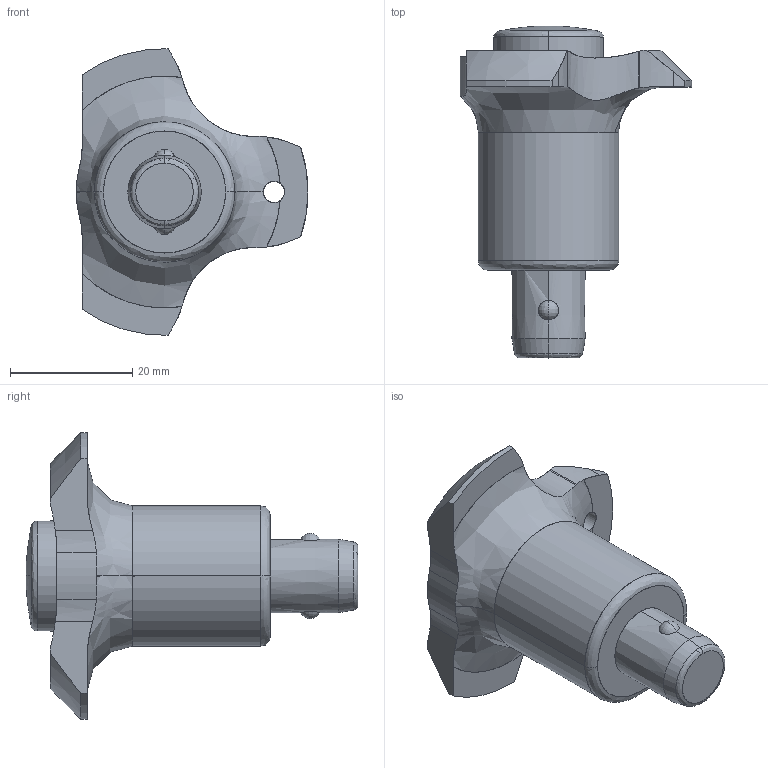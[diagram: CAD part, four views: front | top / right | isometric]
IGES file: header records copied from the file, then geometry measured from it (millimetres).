
Start section: SolidWorks IGES file using analytic representation for surfaces
Global section: file name: C:\Users\ianosborn\Desktop\33180_v2\33180_v2_20250106_IGES\33180.W0040.igs; native system: SolidWorks 2019; preprocessor: SolidWorks 2019; author: IanOsborn; date: 250106.111527; units: millimetre
Bounding box: 38 x 54.4 x 46.99 mm (x, y, z)
Surface area: 9530.3 mm2 (no closed solid volume)
Topology: 0 solids, 0 shells, 68 faces, 1000 edges, 999 vertices
Faces by surface type: revolution 40, bspline 28
